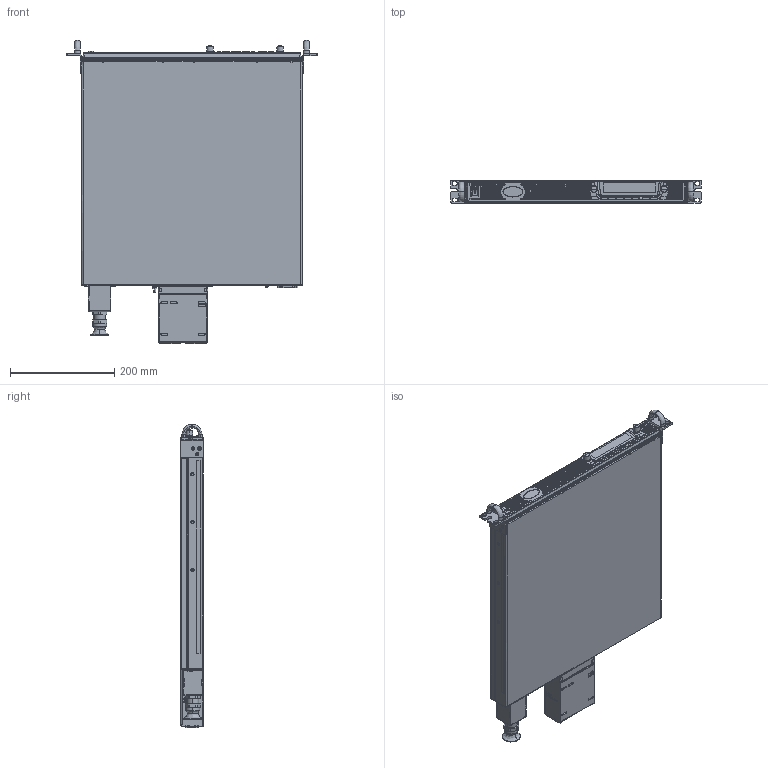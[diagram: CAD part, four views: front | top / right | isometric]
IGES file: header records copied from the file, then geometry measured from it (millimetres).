
Start section: SolidWorks IGES file using analytic representation for surfaces
Global section: file name: C:\3D\Gplus_LV1_5KW_outline.IGS; native system: SolidWorks 2017; preprocessor: SolidWorks 2017; author: 0000000; date: 180601.111822; units: millimetre
Bounding box: 482 x 43.61 x 582.7 mm (x, y, z)
Surface area: 596435.9 mm2 (no closed solid volume)
Topology: 0 solids, 0 shells, 2699 faces, 28712 edges, 28704 vertices
Faces by surface type: bspline 1811, revolution 888
